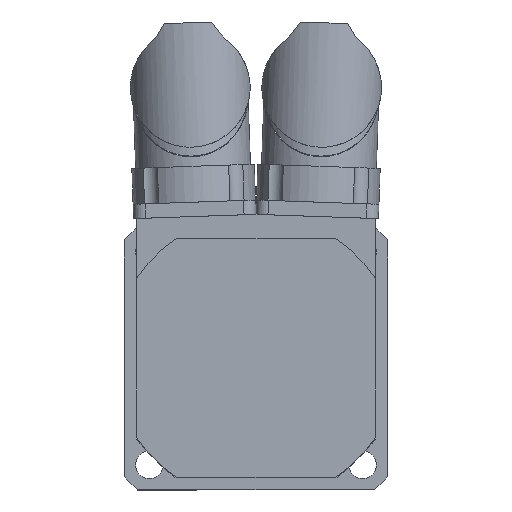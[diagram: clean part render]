
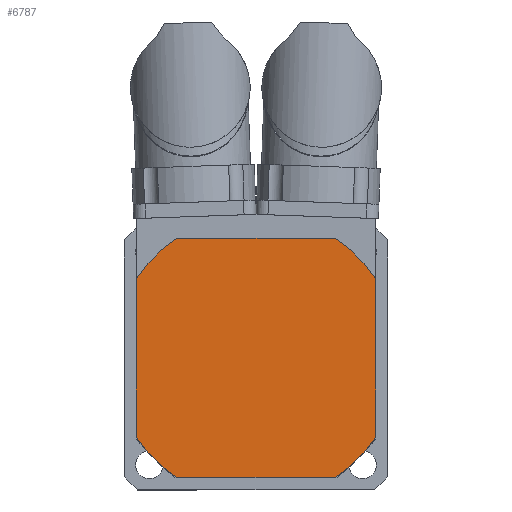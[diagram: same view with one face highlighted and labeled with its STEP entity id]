
A CAD part, top view. The second image highlights one B-rep face of the part: STEP entity #6787.
In plain terms, the highlighted planar face has unit normal (0, 0, 1).
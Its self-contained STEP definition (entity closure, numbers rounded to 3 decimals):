
#6607=CARTESIAN_POINT('',(16.583,25.0,3.5));
#6608=VERTEX_POINT('',#6607);
#6609=CARTESIAN_POINT('',(25.0,16.583,3.5));
#6610=VERTEX_POINT('',#6609);
#6611=CARTESIAN_POINT('',(0.0,0.0,3.5));
#6612=DIRECTION('',(0.0,0.0,-1.0));
#6613=DIRECTION('',(-0.833,-0.553,0.0));
#6614=AXIS2_PLACEMENT_3D('',#6611,#6612,#6613);
#6615=CIRCLE('',#6614,30.0);
#6616=EDGE_CURVE('',#6608,#6610,#6615,.T.);
#6639=CARTESIAN_POINT('',(25.,-16.583,3.5));
#6640=VERTEX_POINT('',#6639);
#6641=CARTESIAN_POINT('',(16.583,-25.0,3.5));
#6642=VERTEX_POINT('',#6641);
#6643=CARTESIAN_POINT('',(0.0,0.0,3.5));
#6644=DIRECTION('',(0.0,0.0,-1.0));
#6645=DIRECTION('',(-0.553,0.833,0.0));
#6646=AXIS2_PLACEMENT_3D('',#6643,#6644,#6645);
#6647=CIRCLE('',#6646,30.0);
#6648=EDGE_CURVE('',#6640,#6642,#6647,.T.);
#6673=CARTESIAN_POINT('',(-16.583,-25.0,3.5));
#6674=VERTEX_POINT('',#6673);
#6675=CARTESIAN_POINT('',(-25.0,-16.583,3.5));
#6676=VERTEX_POINT('',#6675);
#6677=CARTESIAN_POINT('',(0.0,0.0,3.5));
#6678=DIRECTION('',(0.0,0.0,-1.0));
#6679=DIRECTION('',(0.833,0.553,0.0));
#6680=AXIS2_PLACEMENT_3D('',#6677,#6678,#6679);
#6681=CIRCLE('',#6680,30.0);
#6682=EDGE_CURVE('',#6674,#6676,#6681,.T.);
#6713=CARTESIAN_POINT('',(-25.,16.583,3.5));
#6714=VERTEX_POINT('',#6713);
#6715=CARTESIAN_POINT('',(-16.583,25.0,3.5));
#6716=VERTEX_POINT('',#6715);
#6717=CARTESIAN_POINT('',(0.0,0.0,3.5));
#6718=DIRECTION('',(0.0,0.0,-1.0));
#6719=DIRECTION('',(0.553,-0.833,0.0));
#6720=AXIS2_PLACEMENT_3D('',#6717,#6718,#6719);
#6721=CIRCLE('',#6720,30.);
#6722=EDGE_CURVE('',#6714,#6716,#6721,.T.);
#6745=CARTESIAN_POINT('',(-16.583,25.0,3.5));
#6746=DIRECTION('',(1.0,0.0,0.0));
#6747=VECTOR('',#6746,33.166);
#6748=LINE('',#6745,#6747);
#6749=EDGE_CURVE('',#6716,#6608,#6748,.T.);
#6757=CARTESIAN_POINT('',(-27.5,-27.5,3.5));
#6758=DIRECTION('',(0.0,0.0,1.0));
#6759=DIRECTION('',(1.0,0.0,0.0));
#6760=AXIS2_PLACEMENT_3D('',#6757,#6758,#6759);
#6761=PLANE('',#6760);
#6762=ORIENTED_EDGE('',*,*,#6616,.F.);
#6763=ORIENTED_EDGE('',*,*,#6749,.F.);
#6764=ORIENTED_EDGE('',*,*,#6722,.F.);
#6765=CARTESIAN_POINT('',(-25.0,-16.583,3.5));
#6766=DIRECTION('',(0.0,1.0,0.0));
#6767=VECTOR('',#6766,33.166);
#6768=LINE('',#6765,#6767);
#6769=EDGE_CURVE('',#6676,#6714,#6768,.T.);
#6770=ORIENTED_EDGE('',*,*,#6769,.F.);
#6771=ORIENTED_EDGE('',*,*,#6682,.F.);
#6772=CARTESIAN_POINT('',(16.583,-25.0,3.5));
#6773=DIRECTION('',(-1.0,0.0,0.0));
#6774=VECTOR('',#6773,33.166);
#6775=LINE('',#6772,#6774);
#6776=EDGE_CURVE('',#6642,#6674,#6775,.T.);
#6777=ORIENTED_EDGE('',*,*,#6776,.F.);
#6778=ORIENTED_EDGE('',*,*,#6648,.F.);
#6779=CARTESIAN_POINT('',(25.0,16.583,3.5));
#6780=DIRECTION('',(0.0,-1.0,0.0));
#6781=VECTOR('',#6780,33.166);
#6782=LINE('',#6779,#6781);
#6783=EDGE_CURVE('',#6610,#6640,#6782,.T.);
#6784=ORIENTED_EDGE('',*,*,#6783,.F.);
#6785=EDGE_LOOP('',(#6762,#6763,#6764,#6770,#6771,#6777,#6778,#6784));
#6786=FACE_OUTER_BOUND('',#6785,.T.);
#6787=ADVANCED_FACE('',(#6786),#6761,.T.);
